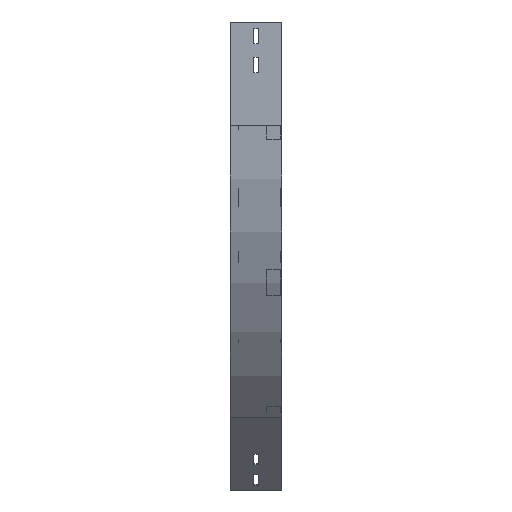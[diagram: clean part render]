
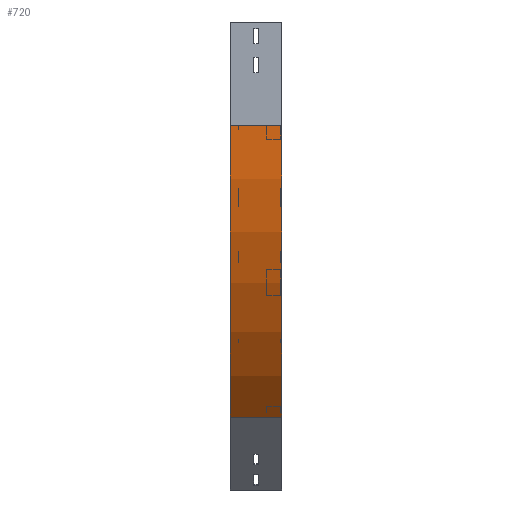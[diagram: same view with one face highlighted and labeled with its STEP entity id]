
A CAD part, left-side view. The second image highlights one B-rep face of the part: STEP entity #720.
In plain terms, the highlighted cylindrical face has radius 600 mm (diameter 1200 mm), a partial arc.
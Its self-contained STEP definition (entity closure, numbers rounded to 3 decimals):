
#66 = CARTESIAN_POINT ( 'NONE',  ( 0., 75., -150. ) ) ;
#128 = CARTESIAN_POINT ( 'NONE',  ( 175.736, 0., -574.264 ) ) ;
#136 = CARTESIAN_POINT ( 'NONE',  ( 600., 0., -150. ) ) ;
#263 = DIRECTION ( 'NONE',  ( 0., -1., 0. ) ) ;
#318 = CARTESIAN_POINT ( 'NONE',  ( 175.736, 75., -574.264 ) ) ;
#417 = CARTESIAN_POINT ( 'NONE',  ( 0., 0., -150. ) ) ;
#474 = CYLINDRICAL_SURFACE ( 'NONE', #3508, 600. ) ;
#647 = EDGE_CURVE ( 'NONE', #716, #1433, #3010, .T. ) ;
#716 = VERTEX_POINT ( 'NONE', #417 ) ;
#720 = ADVANCED_FACE ( 'NONE', ( #721 ), #474, .T. ) ;
#721 = FACE_OUTER_BOUND ( 'NONE', #3350, .T. ) ;
#771 = VERTEX_POINT ( 'NONE', #318 ) ;
#1036 = CARTESIAN_POINT ( 'NONE',  ( 600., 0., -150. ) ) ;
#1093 = ORIENTED_EDGE ( 'NONE', *, *, #3652, .F. ) ;
#1223 = CARTESIAN_POINT ( 'NONE',  ( 175.736, 0., -574.264 ) ) ;
#1315 = DIRECTION ( 'NONE',  ( 0., -1., 0. ) ) ;
#1353 = ORIENTED_EDGE ( 'NONE', *, *, #647, .F. ) ;
#1433 = VERTEX_POINT ( 'NONE', #1223 ) ;
#1437 = VERTEX_POINT ( 'NONE', #66 ) ;
#1482 = CARTESIAN_POINT ( 'NONE',  ( 600., 75., -150. ) ) ;
#1565 = AXIS2_PLACEMENT_3D ( 'NONE', #1036, #2831, #3708 ) ;
#1644 = DIRECTION ( 'NONE',  ( 0., 0., -1. ) ) ;
#1722 = EDGE_CURVE ( 'NONE', #1437, #771, #3369, .T. ) ;
#1823 = VECTOR ( 'NONE', #1315, 1000. ) ;
#1915 = AXIS2_PLACEMENT_3D ( 'NONE', #1482, #263, #3247 ) ;
#2086 = ORIENTED_EDGE ( 'NONE', *, *, #3113, .T. ) ;
#2096 = CARTESIAN_POINT ( 'NONE',  ( 0., 0., -150. ) ) ;
#2152 = VECTOR ( 'NONE', #3299, 1000. ) ;
#2215 = DIRECTION ( 'NONE',  ( 0., -1., 0. ) ) ;
#2799 = LINE ( 'NONE', #128, #1823 ) ;
#2831 = DIRECTION ( 'NONE',  ( 0., -1., 0. ) ) ;
#2911 = ORIENTED_EDGE ( 'NONE', *, *, #1722, .T. ) ;
#2996 = LINE ( 'NONE', #2096, #2152 ) ;
#3010 = CIRCLE ( 'NONE', #1565, 600. ) ;
#3113 = EDGE_CURVE ( 'NONE', #771, #1433, #2799, .T. ) ;
#3247 = DIRECTION ( 'NONE',  ( -1., 0., 0. ) ) ;
#3299 = DIRECTION ( 'NONE',  ( 0., -1., 0. ) ) ;
#3350 = EDGE_LOOP ( 'NONE', ( #1353, #1093, #2911, #2086 ) ) ;
#3369 = CIRCLE ( 'NONE', #1915, 600. ) ;
#3508 = AXIS2_PLACEMENT_3D ( 'NONE', #136, #2215, #1644 ) ;
#3652 = EDGE_CURVE ( 'NONE', #1437, #716, #2996, .T. ) ;
#3708 = DIRECTION ( 'NONE',  ( -1., 0., 0. ) ) ;
